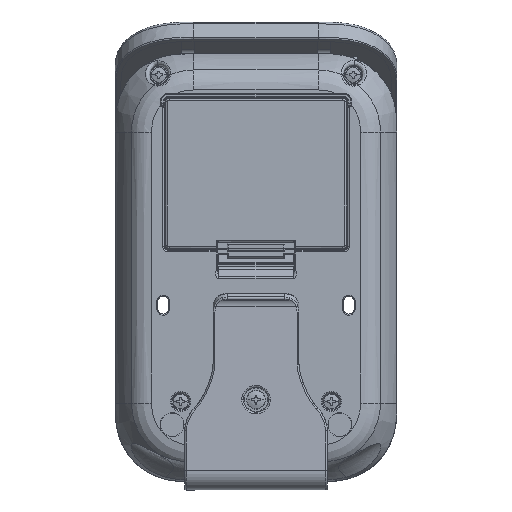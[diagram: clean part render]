
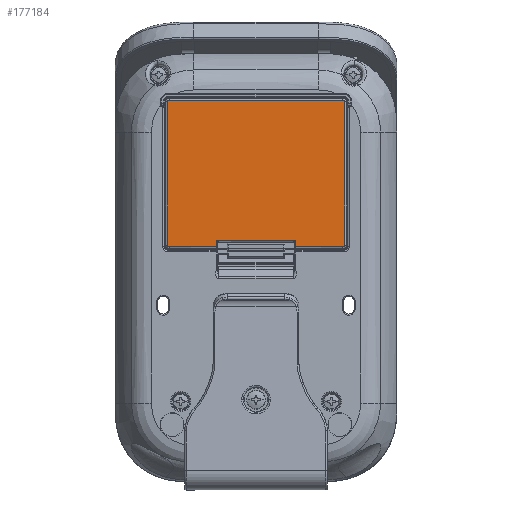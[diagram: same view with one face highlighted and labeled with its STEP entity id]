
A CAD part, front view. The second image highlights one B-rep face of the part: STEP entity #177184.
In plain terms, the highlighted planar face has unit normal (0, -1, 0).
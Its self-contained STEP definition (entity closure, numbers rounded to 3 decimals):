
#173134=DIRECTION('',(1.,0.,0.));
#173135=VECTOR('',#173134,13.169);
#173136=CARTESIAN_POINT('',(-24.369,-35.3,49.832));
#173137=LINE('',#173136,#173135);
#173138=CARTESIAN_POINT('',(-24.868,-35.3,50.331));
#173139=CARTESIAN_POINT('',(-24.868,-35.3,50.312));
#173140=CARTESIAN_POINT('',(-24.866,-35.3,50.275));
#173141=CARTESIAN_POINT('',(-24.857,-35.3,50.22));
#173142=CARTESIAN_POINT('',(-24.841,-35.3,50.166));
#173143=CARTESIAN_POINT('',(-24.82,-35.3,50.114));
#173144=CARTESIAN_POINT('',(-24.793,-35.3,50.065));
#173145=CARTESIAN_POINT('',(-24.76,-35.3,50.019));
#173146=CARTESIAN_POINT('',(-24.723,-35.3,49.977));
#173147=CARTESIAN_POINT('',(-24.681,-35.3,49.94));
#173148=CARTESIAN_POINT('',(-24.635,-35.3,49.907));
#173149=CARTESIAN_POINT('',(-24.586,-35.3,49.88));
#173150=CARTESIAN_POINT('',(-24.534,-35.3,49.859));
#173151=CARTESIAN_POINT('',(-24.48,-35.3,49.843));
#173152=CARTESIAN_POINT('',(-24.425,-35.3,49.834));
#173153=CARTESIAN_POINT('',(-24.388,-35.3,49.832));
#173154=CARTESIAN_POINT('',(-24.369,-35.3,49.832));
#173156=DIRECTION('',(0.,0.,-1.));
#173157=VECTOR('',#173156,40.138);
#173158=CARTESIAN_POINT('',(-24.868,-35.3,90.469));
#173159=LINE('',#173158,#173157);
#173160=CARTESIAN_POINT('',(-24.369,-35.3,90.968));
#173161=CARTESIAN_POINT('',(-24.388,-35.3,90.968));
#173162=CARTESIAN_POINT('',(-24.425,-35.3,90.966));
#173163=CARTESIAN_POINT('',(-24.48,-35.3,90.957));
#173164=CARTESIAN_POINT('',(-24.534,-35.3,90.941));
#173165=CARTESIAN_POINT('',(-24.586,-35.3,90.92));
#173166=CARTESIAN_POINT('',(-24.635,-35.3,90.893));
#173167=CARTESIAN_POINT('',(-24.681,-35.3,90.86));
#173168=CARTESIAN_POINT('',(-24.723,-35.3,90.823));
#173169=CARTESIAN_POINT('',(-24.76,-35.3,90.781));
#173170=CARTESIAN_POINT('',(-24.793,-35.3,90.735));
#173171=CARTESIAN_POINT('',(-24.82,-35.3,90.686));
#173172=CARTESIAN_POINT('',(-24.841,-35.3,90.634));
#173173=CARTESIAN_POINT('',(-24.857,-35.3,90.58));
#173174=CARTESIAN_POINT('',(-24.866,-35.3,90.525));
#173175=CARTESIAN_POINT('',(-24.868,-35.3,90.488));
#173176=CARTESIAN_POINT('',(-24.868,-35.3,90.469));
#173178=DIRECTION('',(-1.,0.,0.));
#173179=VECTOR('',#173178,48.738);
#173180=CARTESIAN_POINT('',(24.369,-35.3,90.968));
#173181=LINE('',#173180,#173179);
#173182=CARTESIAN_POINT('',(24.868,-35.3,90.469));
#173183=CARTESIAN_POINT('',(24.868,-35.3,90.488));
#173184=CARTESIAN_POINT('',(24.866,-35.3,90.525));
#173185=CARTESIAN_POINT('',(24.857,-35.3,90.58));
#173186=CARTESIAN_POINT('',(24.841,-35.3,90.634));
#173187=CARTESIAN_POINT('',(24.82,-35.3,90.686));
#173188=CARTESIAN_POINT('',(24.793,-35.3,90.735));
#173189=CARTESIAN_POINT('',(24.76,-35.3,90.781));
#173190=CARTESIAN_POINT('',(24.723,-35.3,90.823));
#173191=CARTESIAN_POINT('',(24.681,-35.3,90.86));
#173192=CARTESIAN_POINT('',(24.635,-35.3,90.893));
#173193=CARTESIAN_POINT('',(24.586,-35.3,90.92));
#173194=CARTESIAN_POINT('',(24.534,-35.3,90.941));
#173195=CARTESIAN_POINT('',(24.48,-35.3,90.957));
#173196=CARTESIAN_POINT('',(24.425,-35.3,90.966));
#173197=CARTESIAN_POINT('',(24.388,-35.3,90.968));
#173198=CARTESIAN_POINT('',(24.369,-35.3,90.968));
#173200=DIRECTION('',(0.,0.,1.));
#173201=VECTOR('',#173200,40.138);
#173202=CARTESIAN_POINT('',(24.868,-35.3,50.331));
#173203=LINE('',#173202,#173201);
#173204=CARTESIAN_POINT('',(24.369,-35.3,49.832));
#173205=CARTESIAN_POINT('',(24.388,-35.3,49.832));
#173206=CARTESIAN_POINT('',(24.425,-35.3,49.834));
#173207=CARTESIAN_POINT('',(24.48,-35.3,49.843));
#173208=CARTESIAN_POINT('',(24.534,-35.3,49.859));
#173209=CARTESIAN_POINT('',(24.586,-35.3,49.88));
#173210=CARTESIAN_POINT('',(24.635,-35.3,49.907));
#173211=CARTESIAN_POINT('',(24.681,-35.3,49.94));
#173212=CARTESIAN_POINT('',(24.723,-35.3,49.977));
#173213=CARTESIAN_POINT('',(24.76,-35.3,50.019));
#173214=CARTESIAN_POINT('',(24.793,-35.3,50.065));
#173215=CARTESIAN_POINT('',(24.82,-35.3,50.114));
#173216=CARTESIAN_POINT('',(24.841,-35.3,50.166));
#173217=CARTESIAN_POINT('',(24.857,-35.3,50.22));
#173218=CARTESIAN_POINT('',(24.866,-35.3,50.275));
#173219=CARTESIAN_POINT('',(24.868,-35.3,50.312));
#173220=CARTESIAN_POINT('',(24.868,-35.3,50.331));
#173222=DIRECTION('',(1.,0.,0.));
#173223=VECTOR('',#173222,13.169);
#173224=CARTESIAN_POINT('',(11.2,-35.3,49.832));
#173225=LINE('',#173224,#173223);
#173226=DIRECTION('',(0.,0.,-1.));
#173227=VECTOR('',#173226,1.768);
#173228=CARTESIAN_POINT('',(11.2,-35.3,51.6));
#173229=LINE('',#173228,#173227);
#173230=DIRECTION('',(1.,0.,0.));
#173231=VECTOR('',#173230,22.4);
#173232=CARTESIAN_POINT('',(-11.2,-35.3,51.6));
#173233=LINE('',#173232,#173231);
#173234=DIRECTION('',(0.,0.,1.));
#173235=VECTOR('',#173234,1.768);
#173236=CARTESIAN_POINT('',(-11.2,-35.3,49.832));
#173237=LINE('',#173236,#173235);
#175622=CARTESIAN_POINT('',(-11.2,-35.3,49.832));
#176372=CARTESIAN_POINT('',(-24.868,-35.3,90.469));
#176373=CARTESIAN_POINT('',(-24.868,-35.3,50.331));
#176374=VERTEX_POINT('',#176372);
#176375=VERTEX_POINT('',#176373);
#176379=CARTESIAN_POINT('',(24.369,-35.3,90.968));
#176380=CARTESIAN_POINT('',(-24.369,-35.3,90.968));
#176381=VERTEX_POINT('',#176379);
#176382=VERTEX_POINT('',#176380);
#176386=CARTESIAN_POINT('',(24.868,-35.3,50.331));
#176387=CARTESIAN_POINT('',(24.868,-35.3,90.469));
#176388=VERTEX_POINT('',#176386);
#176389=VERTEX_POINT('',#176387);
#176393=CARTESIAN_POINT('',(-24.369,-35.3,49.832));
#176394=VERTEX_POINT('',#176393);
#176395=CARTESIAN_POINT('',(24.369,-35.3,49.832));
#176396=VERTEX_POINT('',#176395);
#176800=VERTEX_POINT('',#175622);
#176818=CARTESIAN_POINT('',(11.2,-35.3,49.832));
#176819=VERTEX_POINT('',#176818);
#176822=CARTESIAN_POINT('',(-11.2,-35.3,51.6));
#176823=VERTEX_POINT('',#176822);
#176826=CARTESIAN_POINT('',(11.2,-35.3,51.6));
#176827=VERTEX_POINT('',#176826);
#177153=CARTESIAN_POINT('',(-25.5,-35.3,49.2));
#177154=DIRECTION('',(0.,1.,0.));
#177155=DIRECTION('',(1.,0.,0.));
#177156=AXIS2_PLACEMENT_3D('',#177153,#177154,#177155);
#177157=PLANE('',#177156);
#177159=ORIENTED_EDGE('',*,*,#177158,.F.);
#177161=ORIENTED_EDGE('',*,*,#177160,.F.);
#177163=ORIENTED_EDGE('',*,*,#177162,.F.);
#177165=ORIENTED_EDGE('',*,*,#177164,.F.);
#177167=ORIENTED_EDGE('',*,*,#177166,.F.);
#177169=ORIENTED_EDGE('',*,*,#177168,.F.);
#177171=ORIENTED_EDGE('',*,*,#177170,.F.);
#177173=ORIENTED_EDGE('',*,*,#177172,.F.);
#177175=ORIENTED_EDGE('',*,*,#177174,.F.);
#177177=ORIENTED_EDGE('',*,*,#177176,.F.);
#177179=ORIENTED_EDGE('',*,*,#177178,.F.);
#177181=ORIENTED_EDGE('',*,*,#177180,.F.);
#177182=EDGE_LOOP('',(#177159,#177161,#177163,#177165,#177167,#177169,#177171,
#177173,#177175,#177177,#177179,#177181));
#177183=FACE_OUTER_BOUND('',#177182,.F.);
#173155=B_SPLINE_CURVE_WITH_KNOTS('',3,(#173138,#173139,#173140,#173141,#173142,
#173143,#173144,#173145,#173146,#173147,#173148,#173149,#173150,#173151,#173152,
#173153,#173154),.UNSPECIFIED.,.F.,.F.,(4,1,1,1,1,1,1,1,1,1,1,1,1,1,4),(0.,
0.071,0.143,0.214,0.286,
0.357,0.429,0.5,0.571,0.643,
0.714,0.786,0.857,0.929,1.),
.UNSPECIFIED.);
#173177=B_SPLINE_CURVE_WITH_KNOTS('',3,(#173160,#173161,#173162,#173163,#173164,
#173165,#173166,#173167,#173168,#173169,#173170,#173171,#173172,#173173,#173174,
#173175,#173176),.UNSPECIFIED.,.F.,.F.,(4,1,1,1,1,1,1,1,1,1,1,1,1,1,4),(0.,
0.071,0.143,0.214,0.286,
0.357,0.429,0.5,0.571,0.643,
0.714,0.786,0.857,0.929,1.),
.UNSPECIFIED.);
#173199=B_SPLINE_CURVE_WITH_KNOTS('',3,(#173182,#173183,#173184,#173185,#173186,
#173187,#173188,#173189,#173190,#173191,#173192,#173193,#173194,#173195,#173196,
#173197,#173198),.UNSPECIFIED.,.F.,.F.,(4,1,1,1,1,1,1,1,1,1,1,1,1,1,4),(0.,
0.071,0.143,0.214,0.286,
0.357,0.429,0.5,0.571,0.643,
0.714,0.786,0.857,0.929,1.),
.UNSPECIFIED.);
#173221=B_SPLINE_CURVE_WITH_KNOTS('',3,(#173204,#173205,#173206,#173207,#173208,
#173209,#173210,#173211,#173212,#173213,#173214,#173215,#173216,#173217,#173218,
#173219,#173220),.UNSPECIFIED.,.F.,.F.,(4,1,1,1,1,1,1,1,1,1,1,1,1,1,4),(0.,
0.071,0.143,0.214,0.286,
0.357,0.429,0.5,0.571,0.643,
0.714,0.786,0.857,0.929,1.),
.UNSPECIFIED.);
#177158=EDGE_CURVE('',#176394,#176800,#173137,.T.);
#177160=EDGE_CURVE('',#176375,#176394,#173155,.T.);
#177162=EDGE_CURVE('',#176374,#176375,#173159,.T.);
#177164=EDGE_CURVE('',#176382,#176374,#173177,.T.);
#177166=EDGE_CURVE('',#176381,#176382,#173181,.T.);
#177168=EDGE_CURVE('',#176389,#176381,#173199,.T.);
#177170=EDGE_CURVE('',#176388,#176389,#173203,.T.);
#177172=EDGE_CURVE('',#176396,#176388,#173221,.T.);
#177174=EDGE_CURVE('',#176819,#176396,#173225,.T.);
#177176=EDGE_CURVE('',#176827,#176819,#173229,.T.);
#177178=EDGE_CURVE('',#176823,#176827,#173233,.T.);
#177180=EDGE_CURVE('',#176800,#176823,#173237,.T.);
#177184=ADVANCED_FACE('',(#177183),#177157,.F.);
